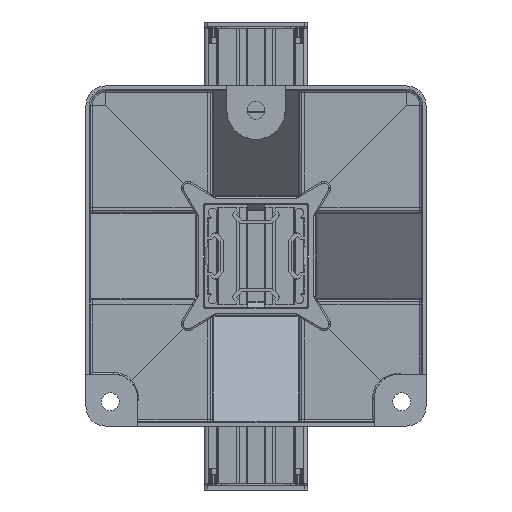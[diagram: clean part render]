
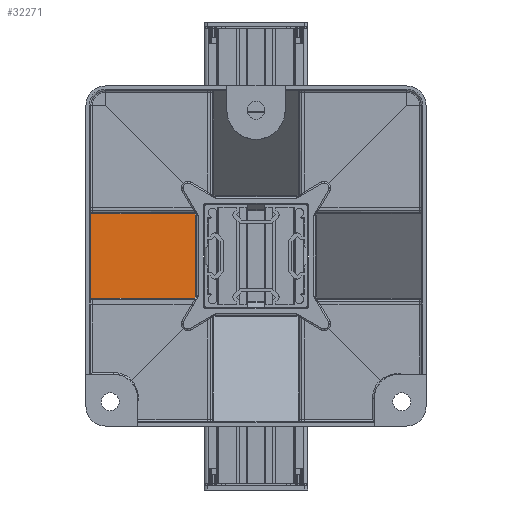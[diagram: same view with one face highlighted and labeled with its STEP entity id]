
A CAD part, front view. The second image highlights one B-rep face of the part: STEP entity #32271.
In plain terms, the highlighted planar face has unit normal (0.697, -0.718, 0).
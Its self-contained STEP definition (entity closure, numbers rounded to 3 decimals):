
#2814 = LINE ( 'NONE', #2884, #2882 ) ;
#2838 = LINE ( 'NONE', #2876, #2875 ) ;
#2874 = DIRECTION ( 'NONE',  ( -0.718, -0.696, 0. ) ) ;
#2875 = VECTOR ( 'NONE', #2874, 1000. ) ;
#2876 = CARTESIAN_POINT ( 'NONE',  ( -34.911, 63.847, 26. ) ) ;
#2880 = DIRECTION ( 'NONE',  ( -0.454, -0.44, 0.775 ) ) ;
#2882 = VECTOR ( 'NONE', #2880, 1000. ) ;
#2884 = CARTESIAN_POINT ( 'NONE',  ( -37.853, 60.991, 25.734 ) ) ;
#2889 = AXIS2_PLACEMENT_3D ( 'NONE', #3008, #2998, #2997 ) ;
#2908 = FACE_OUTER_BOUND ( 'NONE', #32282, .T. ) ;
#2909 = CARTESIAN_POINT ( 'NONE',  ( -38.009, 60.84, 26. ) ) ;
#2922 = PLANE ( 'NONE',  #2889 ) ;
#2925 = LINE ( 'NONE', #3012, #3010 ) ;
#2977 = DIRECTION ( 'NONE',  ( 0., 0., 1. ) ) ;
#2978 = VECTOR ( 'NONE', #2977, 1000. ) ;
#2980 = CARTESIAN_POINT ( 'NONE',  ( -37.196, 61.629, 24.882 ) ) ;
#2981 = LINE ( 'NONE', #2980, #2978 ) ;
#2987 = DIRECTION ( 'NONE',  ( 0.718, 0.696, 0. ) ) ;
#2988 = VECTOR ( 'NONE', #2987, 1000. ) ;
#2989 = CARTESIAN_POINT ( 'NONE',  ( -36.739, 62.072, -26. ) ) ;
#2997 = DIRECTION ( 'NONE',  ( 0.718, 0.696, 0. ) ) ;
#2998 = DIRECTION ( 'NONE',  ( 0.696, -0.718, 0. ) ) ;
#2999 = CARTESIAN_POINT ( 'NONE',  ( -38.009, 60.84, -26. ) ) ;
#3000 = CARTESIAN_POINT ( 'NONE',  ( -37.196, 61.629, -24.611 ) ) ;
#3001 = LINE ( 'NONE', #2989, #2988 ) ;
#3002 = CARTESIAN_POINT ( 'NONE',  ( -37.196, 61.629, 24.611 ) ) ;
#3008 = CARTESIAN_POINT ( 'NONE',  ( -34.911, 63.847, 30. ) ) ;
#3009 = DIRECTION ( 'NONE',  ( 0.454, 0.44, 0.775 ) ) ;
#3010 = VECTOR ( 'NONE', #3009, 1000. ) ;
#3012 = CARTESIAN_POINT ( 'NONE',  ( -36.614, 62.194, -23.616 ) ) ;
#21132 = CARTESIAN_POINT ( 'NONE',  ( -102., -1.269, -26. ) ) ;
#21158 = LINE ( 'NONE', #21204, #21203 ) ;
#21163 = CARTESIAN_POINT ( 'NONE',  ( -102., -1.269, 26. ) ) ;
#21202 = DIRECTION ( 'NONE',  ( 0., 0., -1. ) ) ;
#21203 = VECTOR ( 'NONE', #21202, 1000. ) ;
#21204 = CARTESIAN_POINT ( 'NONE',  ( -102., -1.269, 30. ) ) ;
#30872 = VERTEX_POINT ( 'NONE', #21132 ) ;
#30875 = VERTEX_POINT ( 'NONE', #21163 ) ;
#30878 = EDGE_CURVE ( 'NONE', #30875, #30872, #21158, .T. ) ;
#32197 = ORIENTED_EDGE ( 'NONE', *, *, #32268, .T. ) ;
#32253 = ORIENTED_EDGE ( 'NONE', *, *, #32278, .T. ) ;
#32254 = EDGE_CURVE ( 'NONE', #32277, #32269, #2814, .T. ) ;
#32255 = EDGE_CURVE ( 'NONE', #32269, #30875, #2838, .T. ) ;
#32268 = EDGE_CURVE ( 'NONE', #32275, #32279, #2925, .T. ) ;
#32269 = VERTEX_POINT ( 'NONE', #2909 ) ;
#32270 = ORIENTED_EDGE ( 'NONE', *, *, #32272, .T. ) ;
#32271 = ADVANCED_FACE ( 'NONE', ( #2908 ), #2922, .T. ) ;
#32272 = EDGE_CURVE ( 'NONE', #30872, #32275, #3001, .T. ) ;
#32273 = ORIENTED_EDGE ( 'NONE', *, *, #32254, .T. ) ;
#32274 = ORIENTED_EDGE ( 'NONE', *, *, #30878, .T. ) ;
#32275 = VERTEX_POINT ( 'NONE', #2999 ) ;
#32276 = ORIENTED_EDGE ( 'NONE', *, *, #32255, .T. ) ;
#32277 = VERTEX_POINT ( 'NONE', #3002 ) ;
#32278 = EDGE_CURVE ( 'NONE', #32279, #32277, #2981, .T. ) ;
#32279 = VERTEX_POINT ( 'NONE', #3000 ) ;
#32282 = EDGE_LOOP ( 'NONE', ( #32274, #32270, #32197, #32253, #32273, #32276 ) ) ;
